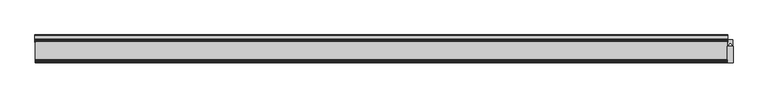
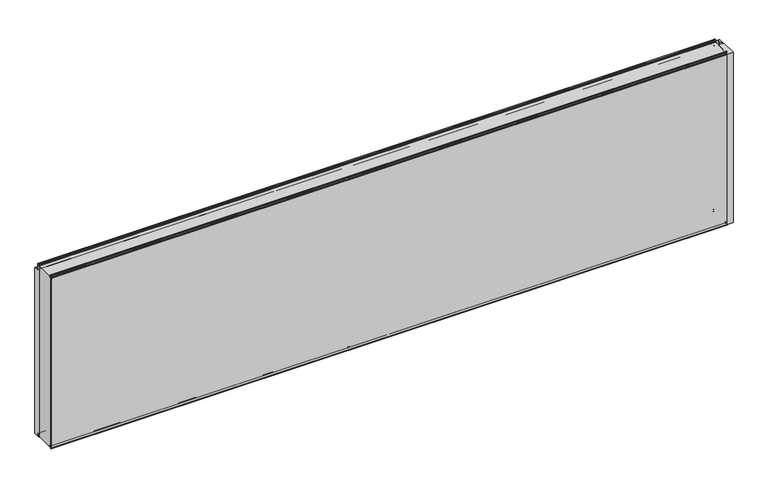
"""IFC4 building model written with IfcOpenShell, lengths in millimetres: plate geometry, Fronttop : Fronttop 150/1000."""

from ifc_helpers import new_model, si_unit, point, frame, frame_2d, origin, origin_with_axes, place, context, project, spatial, polyline, circle_curve, trimmed, segment, composite_curve, outline, extrude, source, transform, mapped, element, save
from ifc_brep_helpers import plane_surface, cylinder_surface, revolved_surface, advanced_brep


def plate_1ca317ef(model_context):
    return source(origin(), model_context, "Body", "SolidModel", [
        advanced_brep(
        [(-1876.5289174, 124.0, 1008.0), (-1876.5289174, 121.0, 1008.0), (-1876.5289174, 121.0, 1004.0), (-1876.5289174, 117.0, 1000.0), (-1876.5289174, 115.0, 1000.0), (-1876.5289174, 115.0, 1001.0), (-1876.5289174, 117.0, 1001.0), (-1876.5289174, 120.0, 1004.0), (-1876.5289174, 120.0, 1008.0), (-1876.5289174, 125.0, 1008.0), (-1876.5289174, 125.0, 1000.0), (-1876.5289174, 124.0, 1000.0), (1876.5289174, 125.0, 1008.0), (1876.5289174, 120.0, 1008.0), (1876.5289174, 120.0, 1004.0), (1876.5289174, 117.0, 1001.0), (1876.5289174, 115.0, 1001.0), (1876.5289174, 115.0, 1000.0), (1876.5289174, 117.0, 1000.0), (1876.5289174, 121.0, 1004.0), (1876.5289174, 121.0, 1008.0), (1876.5289174, 124.0, 1008.0), (1876.5289174, 124.0, 1000.0), (1876.5289174, 125.0, 1000.0), (-1876.5289174, 117.0, 2.0), (1876.5289174, 117.0, 2.0), (1876.5289174, 115.0, 2.0), (-1876.5289174, 115.0, 2.0), (-1876.5289174, 119.0, 4.0), (1876.5289174, 119.0, 4.0), (-1876.5289174, 119.0, 8.0), (1876.5289174, 119.0, 8.0), (-1876.5289174, 126.0, 8.0), (1876.5289174, 126.0, 8.0), (-1876.5289174, 126.0, 0.0), (1876.5289174, 126.0, 0.0), (-1876.5289174, 129.0, -3.0), (1876.5289174, 129.0, -3.0), (-1876.5289174, 125.0, -3.0), (-1877.5289174, 125.0, -3.0), (-1877.5289174, 147.0, -3.0), (-1876.5289174, 147.0, -3.0), (1876.5289174, 147.0, -3.0), (1877.5289174, 147.0, -3.0), (1877.5289174, 125.0, -3.0), (1876.5289174, 125.0, -3.0), (-1876.5289174, 150.0, 0.0), (1876.5289174, 150.0, 0.0), (-1877.5289174, 150.0, 0.0), (-1877.5289174, 150.0, 969.0), (-1876.5289174, 150.0, 969.0), (1876.5289174, 150.0, 969.0), (1877.5289174, 150.0, 969.0), (1877.5289174, 150.0, 0.0), (-1876.5289174, 147.0, 972.0), (1876.5289174, 147.0, 972.0), (-1877.5289174, 147.0, 972.0), (-1877.5289174, 128.0, 972.0), (-1876.5289174, 128.0, 972.0), (1876.5289174, 128.0, 972.0), (1877.5289174, 128.0, 972.0), (1877.5289174, 147.0, 972.0), (-1876.5289174, 125.0, 975.0), (1876.5289174, 125.0, 975.0), (-1877.5289174, 125.0, 975.0), (-1877.5289174, 125.0, 1000.0), (1877.5289174, 125.0, 1000.0), (1877.5289174, 125.0, 975.0), (-1876.5289174, 124.0, 975.0), (1876.5289174, 124.0, 975.0), (-1876.5289174, 128.0, 971.0), (1876.5289174, 128.0, 971.0), (-1876.5289174, 147.0, 971.0), (1876.5289174, 147.0, 971.0), (-1876.5289174, 149.0, 969.0), (1876.5289174, 149.0, 969.0), (-1876.5289174, 149.0, 0.0), (1876.5289174, 149.0, 0.0), (-1876.5289174, 147.0, -2.0), (1876.5289174, 147.0, -2.0), (-1876.5289174, 129.0, -2.0), (1876.5289174, 129.0, -2.0), (-1876.5289174, 127.0, 0.0), (1876.5289174, 127.0, 0.0), (-1876.5289174, 127.0, 8.0), (1876.5289174, 127.0, 8.0), (-1876.5289174, 118.0, 8.0), (1876.5289174, 118.0, 8.0), (-1876.5289174, 118.0, 4.0), (1876.5289174, 118.0, 4.0), (-1876.5289174, 117.0, 3.0), (1876.5289174, 117.0, 3.0), (-1876.5289174, 115.0, 3.0), (1876.5289174, 115.0, 3.0), (1877.5289174, 110.0, 1000.0), (1877.5289174, 110.0, 0.0), (1877.5289174, 125.0, 0.0), (1876.5289174, 125.0, 0.0), (1876.5289174, 110.0, 0.0), (1876.5289174, 110.0, 1000.0), (-1877.5289174, 125.0, 0.0), (-1877.5289174, 110.0, 0.0), (-1877.5289174, 110.0, 1000.0), (-1876.5289174, 110.0, 1000.0), (-1876.5289174, 110.0, 0.0), (-1876.5289174, 125.0, 0.0)],
        [
            (0, 1, circle_curve(frame((-1876.5289174, 122.5, 1008.0), z_axis=(1.0, 0.0, 0.0), x_axis=(0.0, -1.0, 0.0)), 1.5)),
            (1, 2),
            (2, 3, circle_curve(frame((-1876.5289174, 117.0, 1004.0), z_axis=(-1.0, 0.0, 0.0), x_axis=(0.0, -1.0, 0.0)), 4.0)),
            (3, 4),
            (4, 5),
            (5, 6),
            (6, 7, circle_curve(frame((-1876.5289174, 117.0, 1004.0), z_axis=(1.0, 0.0, 0.0), x_axis=(0.0, -1.0, 0.0)), 3.0)),
            (7, 8),
            (8, 9, circle_curve(frame((-1876.5289174, 122.5, 1008.0), z_axis=(-1.0, 0.0, 0.0), x_axis=(0.0, -1.0, 0.0)), 2.5)),
            (9, 10),
            (10, 11),
            (11, 0),
            (12, 13, circle_curve(frame((1876.5289174, 122.5, 1008.0), z_axis=(1.0, 0.0, 0.0), x_axis=(0.0, -1.0, 0.0)), 2.5)),
            (13, 14),
            (14, 15, circle_curve(frame((1876.5289174, 117.0, 1004.0), z_axis=(-1.0, 0.0, 0.0), x_axis=(0.0, -1.0, 0.0)), 3.0)),
            (15, 16),
            (16, 17),
            (17, 18),
            (18, 19, circle_curve(frame((1876.5289174, 117.0, 1004.0), z_axis=(1.0, 0.0, 0.0), x_axis=(0.0, -1.0, 0.0)), 4.0)),
            (19, 20),
            (20, 21, circle_curve(frame((1876.5289174, 122.5, 1008.0), z_axis=(-1.0, 0.0, 0.0), x_axis=(0.0, -1.0, 0.0)), 1.5)),
            (21, 22),
            (22, 23),
            (23, 12),
            (24, 25),
            (25, 26),
            (26, 27),
            (27, 24),
            (24, 28, circle_curve(frame((-1876.5289174, 117.0, 4.0), z_axis=(1.0, 0.0, 0.0), x_axis=(0.0, -1.0, 0.0)), 2.0)),
            (28, 29),
            (29, 25, circle_curve(frame((1876.5289174, 117.0, 4.0), z_axis=(-1.0, 0.0, 0.0), x_axis=(0.0, -1.0, 0.0)), 2.0)),
            (28, 30),
            (30, 31),
            (31, 29),
            (30, 32, circle_curve(frame((-1876.5289174, 122.5, 8.0), z_axis=(-1.0, 0.0, 0.0), x_axis=(0.0, -1.0, 0.0)), 3.5)),
            (32, 33),
            (33, 31, circle_curve(frame((1876.5289174, 122.5, 8.0), z_axis=(1.0, 0.0, 0.0), x_axis=(0.0, -1.0, 0.0)), 3.5)),
            (32, 34),
            (34, 35),
            (35, 33),
            (34, 36, circle_curve(frame((-1876.5289174, 129.0, 0.0), z_axis=(1.0, 0.0, 0.0), x_axis=(0.0, -1.0, 0.0)), 3.0)),
            (36, 37),
            (37, 35, circle_curve(frame((1876.5289174, 129.0, 0.0), z_axis=(-1.0, 0.0, 0.0), x_axis=(0.0, -1.0, 0.0)), 3.0)),
            (36, 38),
            (38, 39),
            (39, 40),
            (40, 41),
            (41, 42),
            (42, 43),
            (43, 44),
            (44, 45),
            (45, 37),
            (41, 46, circle_curve(frame((-1876.5289174, 147.0, 0.0), z_axis=(1.0, 0.0, 0.0), x_axis=(0.0, -1.0, 0.0)), 3.0)),
            (46, 47),
            (47, 42, circle_curve(frame((1876.5289174, 147.0, 0.0), z_axis=(-1.0, 0.0, 0.0), x_axis=(0.0, -1.0, 0.0)), 3.0)),
            (46, 48),
            (48, 49),
            (49, 50),
            (50, 51),
            (51, 52),
            (52, 53),
            (53, 47),
            (50, 54, circle_curve(frame((-1876.5289174, 147.0, 969.0), z_axis=(1.0, 0.0, 0.0), x_axis=(0.0, -1.0, 0.0)), 3.0)),
            (54, 55),
            (55, 51, circle_curve(frame((1876.5289174, 147.0, 969.0), z_axis=(-1.0, 0.0, 0.0), x_axis=(0.0, -1.0, 0.0)), 3.0)),
            (54, 56),
            (56, 57),
            (57, 58),
            (58, 59),
            (59, 60),
            (60, 61),
            (61, 55),
            (58, 62, circle_curve(frame((-1876.5289174, 128.0, 975.0), z_axis=(-1.0, 0.0, 0.0), x_axis=(0.0, -1.0, 0.0)), 3.0)),
            (62, 63),
            (63, 59, circle_curve(frame((1876.5289174, 128.0, 975.0), z_axis=(1.0, 0.0, 0.0), x_axis=(0.0, -1.0, 0.0)), 3.0)),
            (62, 64),
            (64, 65),
            (65, 10),
            (9, 12),
            (23, 66),
            (66, 67),
            (67, 63),
            (8, 13),
            (7, 14),
            (6, 15),
            (5, 16),
            (4, 17),
            (4, 3),
            (3, 18),
            (18, 17),
            (2, 19),
            (1, 20),
            (0, 21),
            (11, 68),
            (68, 69),
            (69, 22),
            (68, 70, circle_curve(frame((-1876.5289174, 128.0, 975.0), z_axis=(1.0, 0.0, 0.0), x_axis=(0.0, -1.0, 0.0)), 4.0)),
            (70, 71),
            (71, 69, circle_curve(frame((1876.5289174, 128.0, 975.0), z_axis=(-1.0, 0.0, 0.0), x_axis=(0.0, -1.0, 0.0)), 4.0)),
            (70, 72),
            (72, 73),
            (73, 71),
            (72, 74, circle_curve(frame((-1876.5289174, 147.0, 969.0), z_axis=(-1.0, 0.0, 0.0), x_axis=(0.0, -1.0, 0.0)), 2.0)),
            (74, 75),
            (75, 73, circle_curve(frame((1876.5289174, 147.0, 969.0), z_axis=(1.0, 0.0, 0.0), x_axis=(0.0, -1.0, 0.0)), 2.0)),
            (74, 76),
            (76, 77),
            (77, 75),
            (76, 78, circle_curve(frame((-1876.5289174, 147.0, 0.0), z_axis=(-1.0, 0.0, 0.0), x_axis=(0.0, -1.0, 0.0)), 2.0)),
            (78, 79),
            (79, 77, circle_curve(frame((1876.5289174, 147.0, 0.0), z_axis=(1.0, 0.0, 0.0), x_axis=(0.0, -1.0, 0.0)), 2.0)),
            (78, 80),
            (80, 81),
            (81, 79),
            (80, 82, circle_curve(frame((-1876.5289174, 129.0, 0.0), z_axis=(-1.0, 0.0, 0.0), x_axis=(0.0, -1.0, 0.0)), 2.0)),
            (82, 83),
            (83, 81, circle_curve(frame((1876.5289174, 129.0, 0.0), z_axis=(1.0, 0.0, 0.0), x_axis=(0.0, -1.0, 0.0)), 2.0)),
            (82, 84),
            (84, 85),
            (85, 83),
            (84, 86, circle_curve(frame((-1876.5289174, 122.5, 8.0), z_axis=(1.0, 0.0, 0.0), x_axis=(0.0, -1.0, 0.0)), 4.5)),
            (86, 87),
            (87, 85, circle_curve(frame((1876.5289174, 122.5, 8.0), z_axis=(-1.0, 0.0, 0.0), x_axis=(0.0, -1.0, 0.0)), 4.5)),
            (86, 88),
            (88, 89),
            (89, 87),
            (88, 90, circle_curve(frame((-1876.5289174, 117.0, 4.0), z_axis=(-1.0, 0.0, 0.0), x_axis=(0.0, -1.0, 0.0)), 1.0)),
            (90, 91),
            (91, 89, circle_curve(frame((1876.5289174, 117.0, 4.0), z_axis=(1.0, 0.0, 0.0), x_axis=(0.0, -1.0, 0.0)), 1.0)),
            (90, 92),
            (92, 93),
            (93, 91),
            (26, 93),
            (92, 27),
            (66, 94),
            (94, 95),
            (95, 96),
            (96, 44),
            (43, 53, circle_curve(frame((1877.5289174, 147.0, 0.0), z_axis=(1.0, 0.0, 0.0), x_axis=(0.0, 1.0, 0.0)), 3.0)),
            (52, 61, circle_curve(frame((1877.5289174, 147.0, 969.0), z_axis=(1.0, 0.0, 0.0), x_axis=(0.0, 1.0, 0.0)), 3.0)),
            (60, 67, circle_curve(frame((1877.5289174, 128.0, 975.0), z_axis=(-1.0, 0.0, 0.0), x_axis=(0.0, 1.0, 0.0)), 3.0)),
            (45, 97),
            (97, 98),
            (98, 99),
            (99, 17),
            (18, 22),
            (99, 94),
            (98, 95),
            (97, 96),
            (64, 57, circle_curve(frame((-1877.5289174, 128.0, 975.0), z_axis=(1.0, 0.0, 0.0), x_axis=(0.0, 1.0, 0.0)), 3.0)),
            (56, 49, circle_curve(frame((-1877.5289174, 147.0, 969.0), z_axis=(-1.0, 0.0, 0.0), x_axis=(0.0, 1.0, 0.0)), 3.0)),
            (48, 40, circle_curve(frame((-1877.5289174, 147.0, 0.0), z_axis=(-1.0, 0.0, 0.0), x_axis=(0.0, 1.0, 0.0)), 3.0)),
            (39, 100),
            (100, 101),
            (101, 102),
            (102, 65),
            (103, 104),
            (104, 105),
            (105, 38),
            (11, 3),
            (4, 103),
            (102, 103),
            (101, 104),
            (100, 105),
        ],
        [
            plane_surface(frame((-1876.5289174, 0.0, 0.0), z_axis=(-1.0, 0.0, 0.0), x_axis=(0.0, 0.0, 1.0))),
            plane_surface(frame((1876.5289174, 0.0, 0.0), z_axis=(1.0, 0.0, 0.0), x_axis=(0.0, 0.0, 1.0))),
            plane_surface(frame((-1876.5289174, 117.0, 2.0), z_axis=(0.0, 0.0, -1.0), x_axis=(1.0, 0.0, 0.0))),
            cylinder_surface(frame((-1876.5289174, 117.0, 4.0), z_axis=(-1.0, 0.0, 0.0), x_axis=(0.0, -1.0, 0.0)), 2.0),
            plane_surface(frame((-1876.5289174, 119.0, 8.0), z_axis=(0.0, 1.0, 0.0), x_axis=(1.0, 0.0, 0.0))),
            revolved_surface(polyline([(1876.5289174, 119.0, 8.0), (-1876.5289174, 119.0, 8.0)]), (-1876.5289174, 122.5, 8.0), (1.0, 0.0, 0.0)),
            plane_surface(frame((-1876.5289174, 126.0, 0.0), z_axis=(0.0, -1.0, 0.0), x_axis=(1.0, 0.0, 0.0))),
            cylinder_surface(frame((-1876.5289174, 129.0, 0.0), z_axis=(-1.0, 0.0, 0.0), x_axis=(0.0, -1.0, 0.0)), 3.0),
            plane_surface(frame((-1876.5289174, 147.0, -3.0), z_axis=(0.0, 0.0, -1.0), x_axis=(1.0, 0.0, 0.0))),
            cylinder_surface(frame((-1876.5289174, 147.0, 0.0), z_axis=(-1.0, 0.0, 0.0), x_axis=(0.0, -1.0, 0.0)), 3.0),
            plane_surface(frame((-1876.5289174, 150.0, 969.0), z_axis=(0.0, 1.0, 0.0), x_axis=(1.0, 0.0, 0.0))),
            cylinder_surface(frame((-1876.5289174, 147.0, 969.0), z_axis=(-1.0, 0.0, 0.0), x_axis=(0.0, -1.0, 0.0)), 3.0),
            plane_surface(frame((-1876.5289174, 128.0, 972.0), z_axis=(0.0, 0.0, 1.0), x_axis=(1.0, 0.0, 0.0))),
            revolved_surface(polyline([(1876.5289174, 125.0, 975.0), (-1876.5289174, 125.0, 975.0)]), (-1876.5289174, 128.0, 975.0), (1.0, 0.0, 0.0)),
            plane_surface(frame((-1876.5289174, 125.0, 1008.0), z_axis=(0.0, 1.0, 0.0), x_axis=(1.0, 0.0, 0.0))),
            cylinder_surface(frame((-1876.5289174, 122.5, 1008.0), z_axis=(-1.0, 0.0, 0.0), x_axis=(0.0, -1.0, 0.0)), 2.5),
            plane_surface(frame((-1876.5289174, 120.0, 1004.0), z_axis=(0.0, -1.0, 0.0), x_axis=(1.0, 0.0, 0.0))),
            revolved_surface(polyline([(1876.5289174, 114.0, 1004.0), (-1876.5289174, 114.0, 1004.0)]), (-1876.5289174, 117.0, 1004.0), (1.0, 0.0, 0.0)),
            plane_surface(frame((-1876.5289174, 115.0, 1001.0), z_axis=(0.0, 0.0, 1.0), x_axis=(1.0, 0.0, 0.0))),
            plane_surface(frame((-1876.5289174, 115.0, 1000.0), z_axis=(0.0, -1.0, 0.0), x_axis=(1.0, 0.0, 0.0))),
            plane_surface(frame((-1876.5289174, 117.0, 1000.0), z_axis=(0.0, 0.0, -1.0), x_axis=(1.0, 0.0, 0.0))),
            cylinder_surface(frame((-1876.5289174, 117.0, 1004.0), z_axis=(-1.0, 0.0, 0.0), x_axis=(0.0, -1.0, 0.0)), 4.0),
            plane_surface(frame((-1876.5289174, 121.0, 1008.0), z_axis=(0.0, 1.0, 0.0), x_axis=(1.0, 0.0, 0.0))),
            revolved_surface(polyline([(1876.5289174, 121.0, 1008.0), (-1876.5289174, 121.0, 1008.0)]), (-1876.5289174, 122.5, 1008.0), (1.0, 0.0, 0.0)),
            plane_surface(frame((-1876.5289174, 124.0, 975.0), z_axis=(0.0, -1.0, 0.0), x_axis=(1.0, 0.0, 0.0))),
            cylinder_surface(frame((-1876.5289174, 128.0, 975.0), z_axis=(-1.0, 0.0, 0.0), x_axis=(0.0, -1.0, 0.0)), 4.0),
            plane_surface(frame((-1876.5289174, 147.0, 971.0), z_axis=(0.0, 0.0, -1.0), x_axis=(1.0, 0.0, 0.0))),
            revolved_surface(polyline([(1876.5289174, 145.0, 969.0), (-1876.5289174, 145.0, 969.0)]), (-1876.5289174, 147.0, 969.0), (1.0, 0.0, 0.0)),
            plane_surface(frame((-1876.5289174, 149.0, 0.0), z_axis=(0.0, -1.0, 0.0), x_axis=(1.0, 0.0, 0.0))),
            revolved_surface(polyline([(1876.5289174, 145.0, 0.0), (-1876.5289174, 145.0, 0.0)]), (-1876.5289174, 147.0, 0.0), (1.0, 0.0, 0.0)),
            plane_surface(frame((-1876.5289174, 129.0, -2.0), z_axis=(0.0, 0.0, 1.0), x_axis=(1.0, 0.0, 0.0))),
            revolved_surface(polyline([(1876.5289174, 127.0, 0.0), (-1876.5289174, 127.0, 0.0)]), (-1876.5289174, 129.0, 0.0), (1.0, 0.0, 0.0)),
            plane_surface(frame((-1876.5289174, 127.0, 8.0), z_axis=(0.0, 1.0, 0.0), x_axis=(1.0, 0.0, 0.0))),
            cylinder_surface(frame((-1876.5289174, 122.5, 8.0), z_axis=(-1.0, 0.0, 0.0), x_axis=(0.0, -1.0, 0.0)), 4.5),
            plane_surface(frame((-1876.5289174, 118.0, 4.0), z_axis=(0.0, -1.0, 0.0), x_axis=(1.0, 0.0, 0.0))),
            revolved_surface(polyline([(1876.5289174, 116.0, 4.0), (-1876.5289174, 116.0, 4.0)]), (-1876.5289174, 117.0, 4.0), (1.0, 0.0, 0.0)),
            plane_surface(frame((-1876.5289174, 115.0, 3.0), z_axis=(0.0, 0.0, 1.0), x_axis=(1.0, 0.0, 0.0))),
            plane_surface(frame((-1876.5289174, 115.0, 2.0), z_axis=(0.0, -1.0, 0.0), x_axis=(1.0, 0.0, 0.0))),
            plane_surface(frame((1877.5289174, 125.0, 1000.0), z_axis=(1.0, 0.0, 0.0), x_axis=(0.0, -1.0, 0.0))),
            plane_surface(frame((1876.5289174, 125.0, 1000.0), z_axis=(-1.0, 0.0, 0.0), x_axis=(0.0, 1.0, 0.0))),
            plane_surface(frame((1877.5289174, 125.0, 1000.0), z_axis=(0.0, 0.0, 1.0), x_axis=(-1.0, 0.0, 0.0))),
            plane_surface(frame((1877.5289174, 110.0, 1000.0), z_axis=(0.0, -1.0, 0.0), x_axis=(-1.0, 0.0, 0.0))),
            plane_surface(frame((1877.5289174, 110.0, 0.0), z_axis=(0.0, 0.0, -1.0), x_axis=(-1.0, 0.0, 0.0))),
            cylinder_surface(frame((1876.5289174, 147.0, 0.0), z_axis=(1.0, 0.0, 0.0), x_axis=(0.0, 1.0, 0.0)), 3.0),
            cylinder_surface(frame((1876.5289174, 147.0, 969.0), z_axis=(1.0, 0.0, 0.0), x_axis=(0.0, 1.0, 0.0)), 3.0),
            revolved_surface(polyline([(1876.5289174, 131.0, 975.0), (1877.5289174, 131.0, 975.0)]), (1876.5289174, 128.0, 975.0), (-1.0, 0.0, 0.0)),
            plane_surface(frame((-1877.5289174, 125.0, 1000.0), z_axis=(-1.0, 0.0, 0.0), x_axis=(0.0, 1.0, 0.0))),
            plane_surface(frame((-1876.5289174, 125.0, 1000.0), z_axis=(1.0, 0.0, 0.0), x_axis=(0.0, -1.0, 0.0))),
            plane_surface(frame((-1876.5289174, 125.0, 1000.0), z_axis=(0.0, 0.0, 1.0), x_axis=(-1.0, 0.0, 0.0))),
            plane_surface(frame((-1876.5289174, 110.0, 1000.0), z_axis=(0.0, -1.0, 0.0), x_axis=(-1.0, 0.0, 0.0))),
            plane_surface(frame((-1876.5289174, 110.0, 0.0), z_axis=(0.0, 0.0, -1.0), x_axis=(-1.0, 0.0, 0.0))),
            cylinder_surface(frame((-1877.5289174, 147.0, 0.0), z_axis=(1.0, 0.0, 0.0), x_axis=(0.0, 1.0, 0.0)), 3.0),
            cylinder_surface(frame((-1877.5289174, 147.0, 969.0), z_axis=(1.0, 0.0, 0.0), x_axis=(0.0, 1.0, 0.0)), 3.0),
            revolved_surface(polyline([(-1877.5289174, 131.0, 975.0), (-1876.5289174, 131.0, 975.0)]), (-1877.5289174, 128.0, 975.0), (-1.0, 0.0, 0.0)),
            plane_surface(frame((1877.5289174, 125.0, 0.0), z_axis=(0.0, -1.0, 0.0), x_axis=(-1.0, 0.0, 0.0))),
            plane_surface(frame((-1876.5289174, 125.0, 0.0), z_axis=(0.0, -1.0, 0.0), x_axis=(-1.0, 0.0, 0.0))),
        ],
        [
            (0, [[1, 2, 3, 4, 5, 6, 7, 8, 9, 10, 11, 12]]),
            (1, [[13, 14, 15, 16, 17, 18, 19, 20, 21, 22, 23, 24]]),
            (2, [[25, 26, 27, 28]]),
            (3, [[-25, 29, 30, 31]]),
            (4, [[-30, 32, 33, 34]]),
            (5, [[-33, 35, 36, 37]]),
            (6, [[-36, 38, 39, 40]]),
            (7, [[-39, 41, 42, 43]]),
            (8, [[-42, 44, 45, 46, 47, 48, 49, 50, 51, 52]]),
            (9, [[-48, 53, 54, 55]]),
            (10, [[-54, 56, 57, 58, 59, 60, 61, 62]]),
            (11, [[-59, 63, 64, 65]]),
            (12, [[-64, 66, 67, 68, 69, 70, 71, 72]]),
            (13, [[-69, 73, 74, 75]]),
            (14, [[-74, 76, 77, 78, -10, 79, -24, 80, 81, 82]]),
            (15, [[-9, 83, -13, -79]]),
            (16, [[-8, 84, -14, -83]]),
            (17, [[-7, 85, -15, -84]]),
            (18, [[-6, 86, -16, -85]]),
            (19, [[-5, 87, -17, -86]]),
            (20, [[-87, 88, 89, 90]]),
            (21, [[-3, 91, -19, -89]]),
            (22, [[-2, 92, -20, -91]]),
            (23, [[-1, 93, -21, -92]]),
            (24, [[-93, -12, 94, 95, 96, -22]]),
            (25, [[-95, 97, 98, 99]]),
            (26, [[-98, 100, 101, 102]]),
            (27, [[-101, 103, 104, 105]]),
            (28, [[-104, 106, 107, 108]]),
            (29, [[-107, 109, 110, 111]]),
            (30, [[-110, 112, 113, 114]]),
            (31, [[-113, 115, 116, 117]]),
            (32, [[-116, 118, 119, 120]]),
            (33, [[-119, 121, 122, 123]]),
            (34, [[-122, 124, 125, 126]]),
            (35, [[-125, 127, 128, 129]]),
            (36, [[-128, 130, 131, 132]]),
            (37, [[-27, 133, -131, 134]]),
            (38, [[135, 136, 137, 138, -50, 139, -61, 140, -71, 141, -81]]),
            (39, [[142, 143, 144, 145, -90, 146, -96, -99, -102, -105, -108, -111, -114, -117, -120, -123, -126, -129, -132, -133, -26, -31, -34, -37, -40, -43, -52]]),
            (40, [[-135, -80, -23, -146, -18, -145, 147]]),
            (41, [[-136, -147, -144, 148]]),
            (42, [[-137, -148, -143, 149]]),
            (43, [[-139, -49, -55, -62]]),
            (44, [[-140, -60, -65, -72]]),
            (45, [[-141, -70, -75, -82]]),
            (46, [[-77, 150, -67, 151, -57, 152, -46, 153, 154, 155, 156]]),
            (47, [[157, 158, 159, -44, -41, -38, -35, -32, -29, -28, -134, -130, -127, -124, -121, -118, -115, -112, -109, -106, -103, -100, -97, -94, 160, -88, 161]]),
            (48, [[-156, 162, -161, -4, -160, -11, -78]]),
            (49, [[-155, 163, -157, -162]]),
            (50, [[-154, 164, -158, -163]]),
            (51, [[-152, -56, -53, -47]]),
            (52, [[-151, -66, -63, -58]]),
            (53, [[-150, -76, -73, -68]]),
            (54, [[-138, -149, -142, -51]]),
            (55, [[-153, -45, -159, -164]]),
        ],
    ),
        extrude(outline(composite_curve([segment(polyline([(1877.5287629, 123.5), (1889.2789174, 123.5), (1889.2789174, 107.5), (1890.7789174, 107.5), (1890.7789174, 123.5), (1902.5290719, 123.5), (1902.5290719, 90.0), (1899.7789174, 90.0), (1899.7789174, 92.5)]), True, "CONTINUOUS"), segment(trimmed(circle_curve(frame_2d((1881.9951153, 89.3183984)), 18.0661619), [point((1899.7789174, 92.5))], [point((1890.0289174, 105.5))], True, "CARTESIAN"), True, "CONTINUOUS"), segment(trimmed(circle_curve(frame_2d((1898.0627196, 89.3183984)), 18.0661619), [point((1890.0289174, 105.5))], [point((1880.2789174, 92.5))], True, "CARTESIAN"), True, "CONTINUOUS"), segment(polyline([(1880.2789174, 92.5), (1880.2789174, 90.0), (1877.5287629, 90.0), (1877.5287629, 123.5)]), True, "CONTINUOUS")], self_intersect=False)), origin_with_axes(), (0.0, 0.0, 1.0), 1000.0),
        extrude(outline(polyline([(1905.5289174, 0.0), (1874.5289174, 0.0), (1874.5289174, 88.0), (1905.5289174, 88.0), (1905.5289174, 0.0)])), origin_with_axes(), (0.0, 0.0, 1.0), 1000.0),
        extrude(outline(polyline([(1878.523802, 125.0), (1901.5340328, 125.0), (1901.5340328, 123.5), (1890.679167, 123.5), (1890.679167, 109.0759655), (1889.3789174, 109.0759655), (1889.3789174, 123.5), (1878.523802, 123.5), (1878.523802, 125.0)])), origin_with_axes(), (0.0, 0.0, 1.0), 1000.0),
        advanced_brep(
        [(-1874.5289174, 13.0, 1001.0), (-1874.5289174, 15.0, 1001.0), (-1874.5289174, 15.0, 1000.0), (-1874.5289174, 13.0, 1000.0), (-1874.5289174, 9.0, 1004.0), (-1874.5289174, 9.0, 1008.0), (-1874.5289174, 6.0, 1008.0), (-1874.5289174, 6.0, 999.5), (-1874.5289174, 2.1134897, 996.0214069), (-1874.5289174, 1.0, 995.0), (-1874.5289174, 1.0, -0.5), (-1874.5289174, 3.0, -0.5), (-1874.5289174, 3.0, 8.0), (-1874.5289174, 12.0, 8.0), (-1874.5289174, 12.0, 4.0), (-1874.5289174, 13.0, 3.0), (-1874.5289174, 15.0, 3.0), (-1874.5289174, 15.0, 2.0), (-1874.5289174, 13.0, 2.0), (-1874.5289174, 11.0, 4.0), (-1874.5289174, 11.0, 8.0), (-1874.5289174, 4.0, 8.0), (-1874.5289174, 4.0, -0.5), (-1874.5289174, 0.0, -0.5), (-1874.5289174, 0.0, 995.0), (-1874.5289174, 2.220863, 996.9877675), (-1874.5289174, 5.0, 999.5), (-1874.5289174, 5.0, 1008.0), (-1874.5289174, 10.0, 1008.0), (-1874.5289174, 10.0, 1004.0), (1874.5289174, 13.0, 1001.0), (1874.5289174, 10.0, 1004.0), (1874.5289174, 10.0, 1008.0), (1874.5289174, 5.0, 1008.0), (1874.5289174, 5.0, 999.5), (1874.5289174, 2.2239212, 997.0152907), (1874.5289174, 0.0, 995.0), (1874.5289174, 0.0, -0.5), (1874.5289174, 4.0, -0.5), (1874.5289174, 4.0, 8.0), (1874.5289174, 11.0, 8.0), (1874.5289174, 11.0, 4.0), (1874.5289174, 13.0, 2.0), (1874.5289174, 15.0, 2.0), (1874.5289174, 15.0, 3.0), (1874.5289174, 13.0, 3.0), (1874.5289174, 12.0, 4.0), (1874.5289174, 12.0, 8.0), (1874.5289174, 3.0, 8.0), (1874.5289174, 3.0, -0.5), (1874.5289174, 1.0, -0.5), (1874.5289174, 1.0, 995.0), (1874.5289174, 2.1104315, 995.9938837), (1874.5289174, 6.0, 999.5), (1874.5289174, 6.0, 1008.0), (1874.5289174, 9.0, 1008.0), (1874.5289174, 9.0, 1004.0), (1874.5289174, 13.0, 1000.0), (1874.5289174, 15.0, 1000.0), (1874.5289174, 15.0, 1001.0)],
        [
            (0, 1),
            (1, 2),
            (2, 3),
            (3, 4, circle_curve(frame((-1874.5289174, 13.0, 1004.0), z_axis=(-1.0, 0.0, 0.0), x_axis=(0.0, -1.0, 0.0)), 4.0)),
            (4, 5),
            (5, 6, circle_curve(frame((-1874.5289174, 7.5, 1008.0), z_axis=(1.0, 0.0, 0.0), x_axis=(0.0, -1.0, 0.0)), 1.5)),
            (6, 7),
            (7, 8, circle_curve(frame((-1874.5289174, 2.5, 999.5), z_axis=(-1.0, 0.0, 0.0), x_axis=(0.0, -1.0, 0.0)), 3.5)),
            (8, 9, circle_curve(frame((-1874.5289174, 2.0, 995.0), z_axis=(1.0, 0.0, 0.0), x_axis=(0.0, -1.0, 0.0)), 1.0)),
            (9, 10),
            (10, 11, circle_curve(frame((-1874.5289174, 2.0, -0.5), z_axis=(1.0, 0.0, 0.0), x_axis=(0.0, -1.0, 0.0)), 1.0)),
            (11, 12),
            (12, 13, circle_curve(frame((-1874.5289174, 7.5, 8.0), z_axis=(-1.0, 0.0, 0.0), x_axis=(0.0, -1.0, 0.0)), 4.5)),
            (13, 14),
            (14, 15, circle_curve(frame((-1874.5289174, 13.0, 4.0), z_axis=(1.0, 0.0, 0.0), x_axis=(0.0, -1.0, 0.0)), 1.0)),
            (15, 16),
            (16, 17),
            (17, 18),
            (18, 19, circle_curve(frame((-1874.5289174, 13.0, 4.0), z_axis=(-1.0, 0.0, 0.0), x_axis=(0.0, -1.0, 0.0)), 2.0)),
            (19, 20),
            (20, 21, circle_curve(frame((-1874.5289174, 7.5, 8.0), z_axis=(1.0, 0.0, 0.0), x_axis=(0.0, -1.0, 0.0)), 3.5)),
            (21, 22),
            (22, 23, circle_curve(frame((-1874.5289174, 2.0, -0.5), z_axis=(-1.0, 0.0, 0.0), x_axis=(0.0, -1.0, 0.0)), 2.0)),
            (23, 24),
            (24, 25, circle_curve(frame((-1874.5289174, 2.0, 995.0), z_axis=(-1.0, 0.0, 0.0), x_axis=(0.0, -1.0, 0.0)), 2.0)),
            (25, 26, circle_curve(frame((-1874.5289174, 2.5, 999.5), z_axis=(1.0, 0.0, 0.0), x_axis=(0.0, -1.0, 0.0)), 2.5)),
            (26, 27),
            (27, 28, circle_curve(frame((-1874.5289174, 7.5, 1008.0), z_axis=(-1.0, 0.0, 0.0), x_axis=(0.0, -1.0, 0.0)), 2.5)),
            (28, 29),
            (29, 0, circle_curve(frame((-1874.5289174, 13.0, 1004.0), z_axis=(1.0, 0.0, 0.0), x_axis=(0.0, -1.0, 0.0)), 3.0)),
            (30, 31, circle_curve(frame((1874.5289174, 13.0, 1004.0), z_axis=(-1.0, 0.0, 0.0), x_axis=(0.0, -1.0, 0.0)), 3.0)),
            (31, 32),
            (32, 33, circle_curve(frame((1874.5289174, 7.5, 1008.0), z_axis=(1.0, 0.0, 0.0), x_axis=(0.0, -1.0, 0.0)), 2.5)),
            (33, 34),
            (34, 35, circle_curve(frame((1874.5289174, 2.5, 999.5), z_axis=(-1.0, 0.0, 0.0), x_axis=(0.0, -1.0, 0.0)), 2.5)),
            (35, 36, circle_curve(frame((1874.5289174, 2.0, 995.0), z_axis=(1.0, 0.0, 0.0), x_axis=(0.0, -1.0, 0.0)), 2.0)),
            (36, 37),
            (37, 38, circle_curve(frame((1874.5289174, 2.0, -0.5), z_axis=(1.0, 0.0, 0.0), x_axis=(0.0, -1.0, 0.0)), 2.0)),
            (38, 39),
            (39, 40, circle_curve(frame((1874.5289174, 7.5, 8.0), z_axis=(-1.0, 0.0, 0.0), x_axis=(0.0, -1.0, 0.0)), 3.5)),
            (40, 41),
            (41, 42, circle_curve(frame((1874.5289174, 13.0, 4.0), z_axis=(1.0, 0.0, 0.0), x_axis=(0.0, -1.0, 0.0)), 2.0)),
            (42, 43),
            (43, 44),
            (44, 45),
            (45, 46, circle_curve(frame((1874.5289174, 13.0, 4.0), z_axis=(-1.0, 0.0, 0.0), x_axis=(0.0, -1.0, 0.0)), 1.0)),
            (46, 47),
            (47, 48, circle_curve(frame((1874.5289174, 7.5, 8.0), z_axis=(1.0, 0.0, 0.0), x_axis=(0.0, -1.0, 0.0)), 4.5)),
            (48, 49),
            (49, 50, circle_curve(frame((1874.5289174, 2.0, -0.5), z_axis=(-1.0, 0.0, 0.0), x_axis=(0.0, -1.0, 0.0)), 1.0)),
            (50, 51),
            (51, 52, circle_curve(frame((1874.5289174, 2.0, 995.0), z_axis=(-1.0, 0.0, 0.0), x_axis=(0.0, -1.0, 0.0)), 1.0)),
            (52, 53, circle_curve(frame((1874.5289174, 2.5, 999.5), z_axis=(1.0, 0.0, 0.0), x_axis=(0.0, -1.0, 0.0)), 3.5)),
            (53, 54),
            (54, 55, circle_curve(frame((1874.5289174, 7.5, 1008.0), z_axis=(-1.0, 0.0, 0.0), x_axis=(0.0, -1.0, 0.0)), 1.5)),
            (55, 56),
            (56, 57, circle_curve(frame((1874.5289174, 13.0, 1004.0), z_axis=(1.0, 0.0, 0.0), x_axis=(0.0, -1.0, 0.0)), 4.0)),
            (57, 58),
            (58, 59),
            (59, 30),
            (0, 30),
            (59, 1),
            (58, 2),
            (57, 3),
            (56, 4),
            (55, 5),
            (54, 6),
            (53, 7),
            (52, 8),
            (51, 9),
            (50, 10),
            (49, 11),
            (48, 12),
            (47, 13),
            (46, 14),
            (45, 15),
            (44, 16),
            (43, 17),
            (42, 18),
            (41, 19),
            (40, 20),
            (39, 21),
            (38, 22),
            (37, 23),
            (36, 24),
            (35, 25),
            (34, 26),
            (33, 27),
            (32, 28),
            (31, 29),
        ],
        [
            plane_surface(frame((-1874.5289174, 0.0, 0.0), z_axis=(-1.0, 0.0, 0.0), x_axis=(0.0, 0.0, 1.0))),
            plane_surface(frame((1874.5289174, 0.0, 0.0), z_axis=(1.0, 0.0, 0.0), x_axis=(0.0, 0.0, 1.0))),
            plane_surface(frame((-1874.5289174, 13.0, 1001.0), z_axis=(0.0, 0.0, 1.0), x_axis=(1.0, 0.0, 0.0))),
            plane_surface(frame((-1874.5289174, 15.0, 1001.0), z_axis=(0.0, 1.0, 0.0), x_axis=(1.0, 0.0, 0.0))),
            plane_surface(frame((-1874.5289174, 15.0, 1000.0), z_axis=(0.0, 0.0, -1.0), x_axis=(1.0, 0.0, 0.0))),
            cylinder_surface(frame((-1874.5289174, 13.0, 1004.0), z_axis=(-1.0, 0.0, 0.0), x_axis=(0.0, -1.0, 0.0)), 4.0),
            plane_surface(frame((-1874.5289174, 9.0, 1004.0), z_axis=(0.0, -1.0, 0.0), x_axis=(1.0, 0.0, 0.0))),
            revolved_surface(polyline([(1874.5289174, 6.0, 1008.0), (-1874.5289174, 6.0, 1008.0)]), (-1874.5289174, 7.5, 1008.0), (1.0, 0.0, 0.0)),
            plane_surface(frame((-1874.5289174, 6.0, 1008.0), z_axis=(0.0, 1.0, 0.0), x_axis=(1.0, 0.0, 0.0))),
            cylinder_surface(frame((-1874.5289174, 2.5, 999.5), z_axis=(-1.0, 0.0, 0.0), x_axis=(0.0, -1.0, 0.0)), 3.5),
            revolved_surface(polyline([(1874.5289174, 1.0, 995.0), (-1874.5289174, 1.0, 995.0)]), (-1874.5289174, 2.0, 995.0), (1.0, 0.0, 0.0)),
            plane_surface(frame((-1874.5289174, 1.0, 995.0), z_axis=(0.0, 1.0, 0.0), x_axis=(1.0, 0.0, 0.0))),
            revolved_surface(polyline([(1874.5289174, 1.0, -0.5), (-1874.5289174, 1.0, -0.5)]), (-1874.5289174, 2.0, -0.5), (1.0, 0.0, 0.0)),
            plane_surface(frame((-1874.5289174, 3.0, -0.5), z_axis=(0.0, -1.0, 0.0), x_axis=(1.0, 0.0, 0.0))),
            cylinder_surface(frame((-1874.5289174, 7.5, 8.0), z_axis=(-1.0, 0.0, 0.0), x_axis=(0.0, -1.0, 0.0)), 4.5),
            plane_surface(frame((-1874.5289174, 12.0, 8.0), z_axis=(0.0, 1.0, 0.0), x_axis=(1.0, 0.0, 0.0))),
            revolved_surface(polyline([(1874.5289174, 12.0, 4.0), (-1874.5289174, 12.0, 4.0)]), (-1874.5289174, 13.0, 4.0), (1.0, 0.0, 0.0)),
            plane_surface(frame((-1874.5289174, 13.0, 3.0), z_axis=(0.0, 0.0, 1.0), x_axis=(1.0, 0.0, 0.0))),
            plane_surface(frame((-1874.5289174, 15.0, 3.0), z_axis=(0.0, 1.0, 0.0), x_axis=(1.0, 0.0, 0.0))),
            plane_surface(frame((-1874.5289174, 15.0, 2.0), z_axis=(0.0, 0.0, -1.0), x_axis=(1.0, 0.0, 0.0))),
            cylinder_surface(frame((-1874.5289174, 13.0, 4.0), z_axis=(-1.0, 0.0, 0.0), x_axis=(0.0, -1.0, 0.0)), 2.0),
            plane_surface(frame((-1874.5289174, 11.0, 4.0), z_axis=(0.0, -1.0, 0.0), x_axis=(1.0, 0.0, 0.0))),
            revolved_surface(polyline([(1874.5289174, 4.0, 8.0), (-1874.5289174, 4.0, 8.0)]), (-1874.5289174, 7.5, 8.0), (1.0, 0.0, 0.0)),
            plane_surface(frame((-1874.5289174, 4.0, 8.0), z_axis=(0.0, 1.0, 0.0), x_axis=(1.0, 0.0, 0.0))),
            cylinder_surface(frame((-1874.5289174, 2.0, -0.5), z_axis=(-1.0, 0.0, 0.0), x_axis=(0.0, -1.0, 0.0)), 2.0),
            plane_surface(frame((-1874.5289174, 0.0, -0.5), z_axis=(0.0, -1.0, 0.0), x_axis=(1.0, 0.0, 0.0))),
            cylinder_surface(frame((-1874.5289174, 2.0, 995.0), z_axis=(-1.0, 0.0, 0.0), x_axis=(0.0, -1.0, 0.0)), 2.0),
            revolved_surface(polyline([(1874.5289174, 0.0, 999.5), (-1874.5289174, 0.0, 999.5)]), (-1874.5289174, 2.5, 999.5), (1.0, 0.0, 0.0)),
            plane_surface(frame((-1874.5289174, 5.0, 999.5), z_axis=(0.0, -1.0, 0.0), x_axis=(1.0, 0.0, 0.0))),
            cylinder_surface(frame((-1874.5289174, 7.5, 1008.0), z_axis=(-1.0, 0.0, 0.0), x_axis=(0.0, -1.0, 0.0)), 2.5),
            plane_surface(frame((-1874.5289174, 10.0, 1008.0), z_axis=(0.0, 1.0, 0.0), x_axis=(1.0, 0.0, 0.0))),
            revolved_surface(polyline([(1874.5289174, 10.0, 1004.0), (-1874.5289174, 10.0, 1004.0)]), (-1874.5289174, 13.0, 1004.0), (1.0, 0.0, 0.0)),
        ],
        [
            (0, [[1, 2, 3, 4, 5, 6, 7, 8, 9, 10, 11, 12, 13, 14, 15, 16, 17, 18, 19, 20, 21, 22, 23, 24, 25, 26, 27, 28, 29, 30]]),
            (1, [[31, 32, 33, 34, 35, 36, 37, 38, 39, 40, 41, 42, 43, 44, 45, 46, 47, 48, 49, 50, 51, 52, 53, 54, 55, 56, 57, 58, 59, 60]]),
            (2, [[-1, 61, -60, 62]]),
            (3, [[-2, -62, -59, 63]]),
            (4, [[-3, -63, -58, 64]]),
            (5, [[-4, -64, -57, 65]]),
            (6, [[-5, -65, -56, 66]]),
            (7, [[-6, -66, -55, 67]]),
            (8, [[-7, -67, -54, 68]]),
            (9, [[-8, -68, -53, 69]]),
            (10, [[-9, -69, -52, 70]]),
            (11, [[-10, -70, -51, 71]]),
            (12, [[-11, -71, -50, 72]]),
            (13, [[-12, -72, -49, 73]]),
            (14, [[-13, -73, -48, 74]]),
            (15, [[-14, -74, -47, 75]]),
            (16, [[-15, -75, -46, 76]]),
            (17, [[-16, -76, -45, 77]]),
            (18, [[-17, -77, -44, 78]]),
            (19, [[-18, -78, -43, 79]]),
            (20, [[-19, -79, -42, 80]]),
            (21, [[-20, -80, -41, 81]]),
            (22, [[-21, -81, -40, 82]]),
            (23, [[-22, -82, -39, 83]]),
            (24, [[-23, -83, -38, 84]]),
            (25, [[-24, -84, -37, 85]]),
            (26, [[-25, -85, -36, 86]]),
            (27, [[-26, -86, -35, 87]]),
            (28, [[-27, -87, -34, 88]]),
            (29, [[-28, -88, -33, 89]]),
            (30, [[-29, -89, -32, 90]]),
            (31, [[-30, -90, -31, -61]]),
        ],
    ),
        extrude(outline(composite_curve([segment(polyline([(15.0, 3.0), (13.0, 3.0)]), True, "CONTINUOUS"), segment(trimmed(circle_curve(frame_2d((13.0, 4.0)), 1.0), [point((13.0, 3.0))], [point((12.0, 4.0))], False, "CARTESIAN"), True, "CONTINUOUS"), segment(polyline([(12.0, 4.0), (12.0, 8.0)]), True, "CONTINUOUS"), segment(trimmed(circle_curve(frame_2d((7.5, 8.0)), 4.5), [point((12.0, 8.0))], [point((3.0, 8.0))], True, "CARTESIAN"), True, "CONTINUOUS"), segment(polyline([(3.0, 8.0), (3.0, -0.5)]), True, "CONTINUOUS"), segment(trimmed(circle_curve(frame_2d((2.0, -0.5)), 1.0), [point((3.0, -0.5))], [point((1.0, -0.5))], False, "CARTESIAN"), True, "CONTINUOUS"), segment(polyline([(1.0, -0.5), (1.0, 995.0278643)]), True, "CONTINUOUS"), segment(trimmed(circle_curve(frame_2d((2.0, 995.0278643)), 1.0), [point((1.0, 995.0278643))], [point((2.1111111, 996.0216723))], False, "CARTESIAN"), True, "CONTINUOUS"), segment(trimmed(circle_curve(frame_2d((2.5, 999.5)), 3.5), [point((2.1111111, 996.0216723))], [point((6.0, 999.5))], True, "CARTESIAN"), True, "CONTINUOUS"), segment(polyline([(6.0, 999.5), (6.0, 1008.0)]), True, "CONTINUOUS"), segment(trimmed(circle_curve(frame_2d((7.5, 1008.0)), 1.5), [point((6.0, 1008.0))], [point((9.0, 1008.0))], False, "CARTESIAN"), True, "CONTINUOUS"), segment(polyline([(9.0, 1008.0), (9.0, 1004.0)]), True, "CONTINUOUS"), segment(trimmed(circle_curve(frame_2d((13.0, 1004.0)), 4.0), [point((9.0, 1004.0))], [point((13.0, 1000.0))], True, "CARTESIAN"), True, "CONTINUOUS"), segment(polyline([(13.0, 1000.0), (117.0, 1000.0)]), True, "CONTINUOUS"), segment(trimmed(circle_curve(frame_2d((117.0, 1004.0)), 4.0), [point((117.0, 1000.0))], [point((121.0, 1004.0))], True, "CARTESIAN"), True, "CONTINUOUS"), segment(polyline([(121.0, 1004.0), (121.0, 1008.0)]), True, "CONTINUOUS"), segment(trimmed(circle_curve(frame_2d((122.5, 1008.0)), 1.5), [point((121.0, 1008.0))], [point((124.0, 1008.0))], False, "CARTESIAN"), True, "CONTINUOUS"), segment(polyline([(124.0, 1008.0), (124.0, 975.0)]), True, "CONTINUOUS"), segment(trimmed(circle_curve(frame_2d((128.0, 975.0)), 4.0), [point((124.0, 975.0))], [point((128.0, 971.0))], True, "CARTESIAN"), True, "CONTINUOUS"), segment(polyline([(128.0, 971.0), (147.0, 971.0)]), True, "CONTINUOUS"), segment(trimmed(circle_curve(frame_2d((147.0, 969.0)), 2.0), [point((147.0, 971.0))], [point((149.0, 969.0))], False, "CARTESIAN"), True, "CONTINUOUS"), segment(polyline([(149.0, 969.0), (149.0, 0.0)]), True, "CONTINUOUS"), segment(trimmed(circle_curve(frame_2d((147.0, 0.0)), 2.0), [point((149.0, 0.0))], [point((147.0, -2.0))], False, "CARTESIAN"), True, "CONTINUOUS"), segment(polyline([(147.0, -2.0), (129.0, -2.0)]), True, "CONTINUOUS"), segment(trimmed(circle_curve(frame_2d((129.0, 0.0)), 2.0), [point((129.0, -2.0))], [point((127.0, 0.0))], False, "CARTESIAN"), True, "CONTINUOUS"), segment(polyline([(127.0, 0.0), (127.0, 8.0)]), True, "CONTINUOUS"), segment(trimmed(circle_curve(frame_2d((122.5, 8.0)), 4.5), [point((127.0, 8.0))], [point((118.0, 8.0))], True, "CARTESIAN"), True, "CONTINUOUS"), segment(polyline([(118.0, 8.0), (118.0, 4.0)]), True, "CONTINUOUS"), segment(trimmed(circle_curve(frame_2d((117.0, 4.0)), 1.0), [point((118.0, 4.0))], [point((117.0, 3.0))], False, "CARTESIAN"), True, "CONTINUOUS"), segment(polyline([(117.0, 3.0), (115.0, 3.0), (115.0, 0.0), (15.0, 0.0), (15.0, 3.0)]), True, "CONTINUOUS")], self_intersect=False)), frame((-1874.5289174, 0.0, 0.0), z_axis=(1.0, 0.0, 0.0), x_axis=(0.0, 1.0, 0.0)), (0.0, 0.0, 1.0), 3749.0578348),
    ])


if __name__ == "__main__":
    model = new_model("IFC4")
    model_context = context("Model", 3, world=origin())
    ifc_project = project(units=[si_unit("LENGTHUNIT", "METRE", prefix="MILLI")], contexts=[model_context])
    site = spatial("IfcSite", under=ifc_project)
    building = spatial("IfcBuilding", under=site)
    placement = place(None, origin())
    plate_shape = plate_1ca317ef(model_context)
    element("IfcPlate", 1, ObjectType="Fronttop : Fronttop 150/1000", at=placement, inside=building, context=model_context, shape_type="MappedRepresentation", body=[
        mapped(plate_shape, transform((0.0, 0.0, 0.0), x_axis=(1.0, 0.0, 0.0), y_axis=(0.0, 1.0, 0.0), z_axis=(0.0, 0.0, 1.0))),
    ])
    save(model, "model.ifc")
